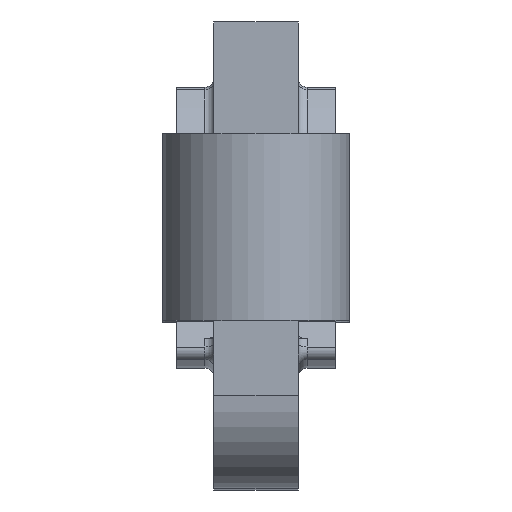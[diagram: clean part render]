
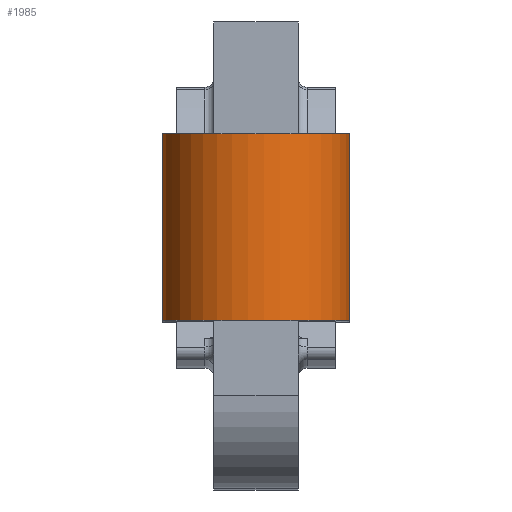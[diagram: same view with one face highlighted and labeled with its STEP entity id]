
A CAD part, top view. The second image highlights one B-rep face of the part: STEP entity #1985.
In plain terms, the highlighted cylindrical face has radius 5 mm (diameter 10 mm), a partial arc.
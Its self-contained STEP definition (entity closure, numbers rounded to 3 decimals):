
#345=DIRECTION('',(0.,-1.,0.));
#346=VECTOR('',#345,10.);
#347=CARTESIAN_POINT('',(-3.625,-6.,23.756));
#348=LINE('',#347,#346);
#349=CARTESIAN_POINT('',(0.,-6.,27.2));
#350=DIRECTION('',(0.,1.,0.));
#351=DIRECTION('',(-0.725,0.,-0.689));
#352=AXIS2_PLACEMENT_3D('',#349,#350,#351);
#354=DIRECTION('',(0.,1.,0.));
#355=VECTOR('',#354,10.);
#356=CARTESIAN_POINT('',(3.625,-16.,23.756));
#357=LINE('',#356,#355);
#358=CARTESIAN_POINT('',(0.,-16.,27.2));
#359=DIRECTION('',(0.,-1.,0.));
#360=DIRECTION('',(0.725,0.,-0.689));
#361=AXIS2_PLACEMENT_3D('',#358,#359,#360);
#1663=CARTESIAN_POINT('',(-3.625,-6.,23.756));
#1664=CARTESIAN_POINT('',(-3.625,-16.,23.756));
#1665=VERTEX_POINT('',#1663);
#1666=VERTEX_POINT('',#1664);
#1683=CARTESIAN_POINT('',(3.625,-16.,23.756));
#1684=CARTESIAN_POINT('',(3.625,-6.,23.756));
#1685=VERTEX_POINT('',#1683);
#1686=VERTEX_POINT('',#1684);
#1971=CARTESIAN_POINT('',(0.,0.,27.2));
#1972=DIRECTION('',(0.,1.,0.));
#1973=DIRECTION('',(0.,0.,1.));
#1974=AXIS2_PLACEMENT_3D('',#1971,#1972,#1973);
#1975=CYLINDRICAL_SURFACE('',#1974,5.);
#1977=ORIENTED_EDGE('',*,*,#1976,.F.);
#1979=ORIENTED_EDGE('',*,*,#1978,.T.);
#1981=ORIENTED_EDGE('',*,*,#1980,.F.);
#1982=ORIENTED_EDGE('',*,*,#1929,.T.);
#1983=EDGE_LOOP('',(#1977,#1979,#1981,#1982));
#1984=FACE_OUTER_BOUND('',#1983,.F.);
#1985=ADVANCED_FACE('',(#1984),#1975,.T.);
#353=CIRCLE('',#352,5.);
#362=CIRCLE('',#361,5.);
#1929=EDGE_CURVE('',#1685,#1666,#362,.T.);
#1976=EDGE_CURVE('',#1665,#1666,#348,.T.);
#1978=EDGE_CURVE('',#1665,#1686,#353,.T.);
#1980=EDGE_CURVE('',#1685,#1686,#357,.T.);
